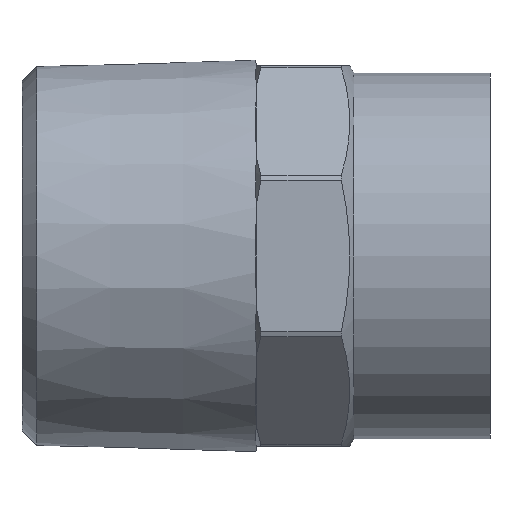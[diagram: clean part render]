
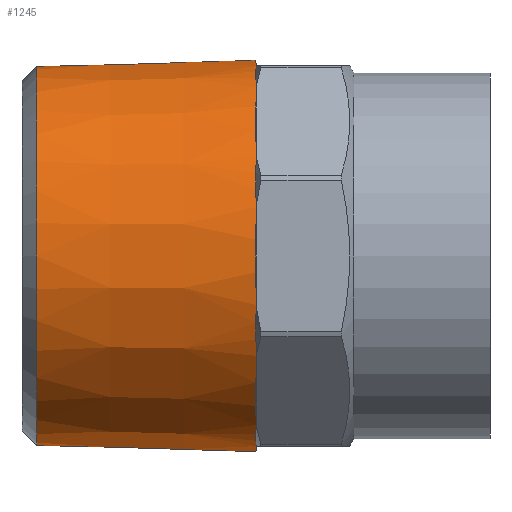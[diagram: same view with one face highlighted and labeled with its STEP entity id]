
A CAD part, front view. The second image highlights one B-rep face of the part: STEP entity #1245.
In plain terms, the highlighted conical face has half-angle 1.79 degrees and reference radius 13.175 mm.
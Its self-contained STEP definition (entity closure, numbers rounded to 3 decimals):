
#73=CARTESIAN_POINT('',(16.,13.0,-3.351));
#74=VERTEX_POINT('',#73);
#75=CARTESIAN_POINT('',(16.,13.0,3.351));
#76=VERTEX_POINT('',#75);
#77=CARTESIAN_POINT('',(16.,0.0,0.0));
#78=DIRECTION('',(1.0,0.0,0.0));
#79=DIRECTION('',(0.0,1.0,0.0));
#80=AXIS2_PLACEMENT_3D('',#77,#78,#79);
#81=CIRCLE('',#80,13.425);
#82=EDGE_CURVE('',#74,#76,#81,.T.);
#98=CARTESIAN_POINT('',(16.,6.823,-11.562));
#99=VERTEX_POINT('',#98);
#100=CARTESIAN_POINT('',(16.0,11.562,-6.823));
#101=VERTEX_POINT('',#100);
#102=CARTESIAN_POINT('',(16.,0.0,0.0));
#103=DIRECTION('',(1.0,0.0,0.0));
#104=DIRECTION('',(0.0,1.0,0.0));
#105=AXIS2_PLACEMENT_3D('',#102,#103,#104);
#106=CIRCLE('',#105,13.425);
#107=EDGE_CURVE('',#99,#101,#106,.T.);
#123=CARTESIAN_POINT('',(16.,-3.351,-13.0));
#124=VERTEX_POINT('',#123);
#125=CARTESIAN_POINT('',(16.,3.351,-13.0));
#126=VERTEX_POINT('',#125);
#127=CARTESIAN_POINT('',(16.,0.0,0.0));
#128=DIRECTION('',(1.0,0.0,0.0));
#129=DIRECTION('',(0.0,1.0,0.0));
#130=AXIS2_PLACEMENT_3D('',#127,#128,#129);
#131=CIRCLE('',#130,13.425);
#132=EDGE_CURVE('',#124,#126,#131,.T.);
#148=CARTESIAN_POINT('',(16.,-11.562,-6.823));
#149=VERTEX_POINT('',#148);
#150=CARTESIAN_POINT('',(16.0,-6.823,-11.562));
#151=VERTEX_POINT('',#150);
#152=CARTESIAN_POINT('',(16.,0.0,0.0));
#153=DIRECTION('',(1.0,0.0,0.0));
#154=DIRECTION('',(0.0,1.0,0.0));
#155=AXIS2_PLACEMENT_3D('',#152,#153,#154);
#156=CIRCLE('',#155,13.425);
#157=EDGE_CURVE('',#149,#151,#156,.T.);
#173=CARTESIAN_POINT('',(16.0,-13.,3.351));
#174=VERTEX_POINT('',#173);
#175=CARTESIAN_POINT('',(16.0,-13.,-3.351));
#176=VERTEX_POINT('',#175);
#177=CARTESIAN_POINT('',(16.,0.0,0.0));
#178=DIRECTION('',(1.0,0.0,0.0));
#179=DIRECTION('',(0.0,1.0,0.0));
#180=AXIS2_PLACEMENT_3D('',#177,#178,#179);
#181=CIRCLE('',#180,13.425);
#182=EDGE_CURVE('',#174,#176,#181,.T.);
#198=CARTESIAN_POINT('',(16.,-6.823,11.562));
#199=VERTEX_POINT('',#198);
#200=CARTESIAN_POINT('',(16.0,-11.562,6.823));
#201=VERTEX_POINT('',#200);
#202=CARTESIAN_POINT('',(16.,0.0,0.0));
#203=DIRECTION('',(1.0,0.0,0.0));
#204=DIRECTION('',(0.0,1.0,0.0));
#205=AXIS2_PLACEMENT_3D('',#202,#203,#204);
#206=CIRCLE('',#205,13.425);
#207=EDGE_CURVE('',#199,#201,#206,.T.);
#223=CARTESIAN_POINT('',(16.,11.562,6.823));
#224=VERTEX_POINT('',#223);
#225=CARTESIAN_POINT('',(16.0,6.823,11.562));
#226=VERTEX_POINT('',#225);
#227=CARTESIAN_POINT('',(16.,0.0,0.0));
#228=DIRECTION('',(1.0,0.0,0.0));
#229=DIRECTION('',(0.0,1.0,0.0));
#230=AXIS2_PLACEMENT_3D('',#227,#228,#229);
#231=CIRCLE('',#230,13.425);
#232=EDGE_CURVE('',#224,#226,#231,.T.);
#734=CARTESIAN_POINT('',(16.0,-3.351,13.));
#735=VERTEX_POINT('',#734);
#749=CARTESIAN_POINT('',(16.,0.0,0.0));
#750=DIRECTION('',(1.0,0.0,0.0));
#751=DIRECTION('',(0.0,1.0,0.0));
#752=AXIS2_PLACEMENT_3D('',#749,#750,#751);
#753=CIRCLE('',#752,13.425);
#754=EDGE_CURVE('',#735,#199,#753,.T.);
#773=CARTESIAN_POINT('',(16.,0.0,0.0));
#774=DIRECTION('',(1.0,0.0,0.0));
#775=DIRECTION('',(0.0,1.0,0.0));
#776=AXIS2_PLACEMENT_3D('',#773,#774,#775);
#777=CIRCLE('',#776,13.425);
#778=EDGE_CURVE('',#201,#174,#777,.T.);
#797=CARTESIAN_POINT('',(16.,0.0,0.0));
#798=DIRECTION('',(1.0,0.0,0.0));
#799=DIRECTION('',(0.0,1.0,0.0));
#800=AXIS2_PLACEMENT_3D('',#797,#798,#799);
#801=CIRCLE('',#800,13.425);
#802=EDGE_CURVE('',#176,#149,#801,.T.);
#821=CARTESIAN_POINT('',(16.,0.0,0.0));
#822=DIRECTION('',(1.0,0.0,0.0));
#823=DIRECTION('',(0.0,1.0,0.0));
#824=AXIS2_PLACEMENT_3D('',#821,#822,#823);
#825=CIRCLE('',#824,13.425);
#826=EDGE_CURVE('',#151,#124,#825,.T.);
#845=CARTESIAN_POINT('',(16.,0.0,0.0));
#846=DIRECTION('',(1.0,0.0,0.0));
#847=DIRECTION('',(0.0,1.0,0.0));
#848=AXIS2_PLACEMENT_3D('',#845,#846,#847);
#849=CIRCLE('',#848,13.425);
#850=EDGE_CURVE('',#126,#99,#849,.T.);
#869=CARTESIAN_POINT('',(16.,0.0,0.0));
#870=DIRECTION('',(1.0,0.0,0.0));
#871=DIRECTION('',(0.0,1.0,0.0));
#872=AXIS2_PLACEMENT_3D('',#869,#870,#871);
#873=CIRCLE('',#872,13.425);
#874=EDGE_CURVE('',#101,#74,#873,.T.);
#893=CARTESIAN_POINT('',(16.,0.0,0.0));
#894=DIRECTION('',(1.0,0.0,0.0));
#895=DIRECTION('',(0.0,1.0,0.0));
#896=AXIS2_PLACEMENT_3D('',#893,#894,#895);
#897=CIRCLE('',#896,13.425);
#898=EDGE_CURVE('',#76,#224,#897,.T.);
#1041=CARTESIAN_POINT('',(16.0,3.351,13.));
#1042=VERTEX_POINT('',#1041);
#1095=CARTESIAN_POINT('',(16.,0.0,0.0));
#1096=DIRECTION('',(1.0,0.0,0.0));
#1097=DIRECTION('',(0.0,1.0,0.0));
#1098=AXIS2_PLACEMENT_3D('',#1095,#1096,#1097);
#1099=CIRCLE('',#1098,13.425);
#1100=EDGE_CURVE('',#1042,#735,#1099,.T.);
#1181=CARTESIAN_POINT('',(1.,12.956,0.));
#1182=VERTEX_POINT('',#1181);
#1183=CARTESIAN_POINT('',(1.,0.0,0.));
#1184=DIRECTION('',(-1.0,0.0,0.0));
#1185=DIRECTION('',(0.0,-1.0,0.0));
#1186=AXIS2_PLACEMENT_3D('',#1183,#1184,#1185);
#1187=CIRCLE('',#1186,12.956);
#1188=EDGE_CURVE('',#1182,#1182,#1187,.T.);
#1213=CARTESIAN_POINT('',(8.,0.0,0.0));
#1214=DIRECTION('',(1.0,0.0,0.0));
#1215=DIRECTION('',(0.0,1.0,0.0));
#1216=AXIS2_PLACEMENT_3D('',#1213,#1214,#1215);
#1217=CONICAL_SURFACE('',#1216,13.175,1.79);
#1218=ORIENTED_EDGE('',*,*,#754,.F.);
#1219=ORIENTED_EDGE('',*,*,#1100,.F.);
#1220=CARTESIAN_POINT('',(16.,0.0,0.0));
#1221=DIRECTION('',(1.0,0.0,0.0));
#1222=DIRECTION('',(0.0,1.0,0.0));
#1223=AXIS2_PLACEMENT_3D('',#1220,#1221,#1222);
#1224=CIRCLE('',#1223,13.425);
#1225=EDGE_CURVE('',#226,#1042,#1224,.T.);
#1226=ORIENTED_EDGE('',*,*,#1225,.F.);
#1227=ORIENTED_EDGE('',*,*,#232,.F.);
#1228=ORIENTED_EDGE('',*,*,#898,.F.);
#1229=ORIENTED_EDGE('',*,*,#82,.F.);
#1230=ORIENTED_EDGE('',*,*,#874,.F.);
#1231=ORIENTED_EDGE('',*,*,#107,.F.);
#1232=ORIENTED_EDGE('',*,*,#850,.F.);
#1233=ORIENTED_EDGE('',*,*,#132,.F.);
#1234=ORIENTED_EDGE('',*,*,#826,.F.);
#1235=ORIENTED_EDGE('',*,*,#157,.F.);
#1236=ORIENTED_EDGE('',*,*,#802,.F.);
#1237=ORIENTED_EDGE('',*,*,#182,.F.);
#1238=ORIENTED_EDGE('',*,*,#778,.F.);
#1239=ORIENTED_EDGE('',*,*,#207,.F.);
#1240=EDGE_LOOP('',(#1218,#1219,#1226,#1227,#1228,#1229,#1230,#1231,#1232,#1233,#1234,#1235,#1236,#1237,#1238,#1239));
#1241=FACE_OUTER_BOUND('',#1240,.T.);
#1242=ORIENTED_EDGE('',*,*,#1188,.F.);
#1243=EDGE_LOOP('',(#1242));
#1244=FACE_BOUND('',#1243,.T.);
#1245=ADVANCED_FACE('',(#1241,#1244),#1217,.T.);
